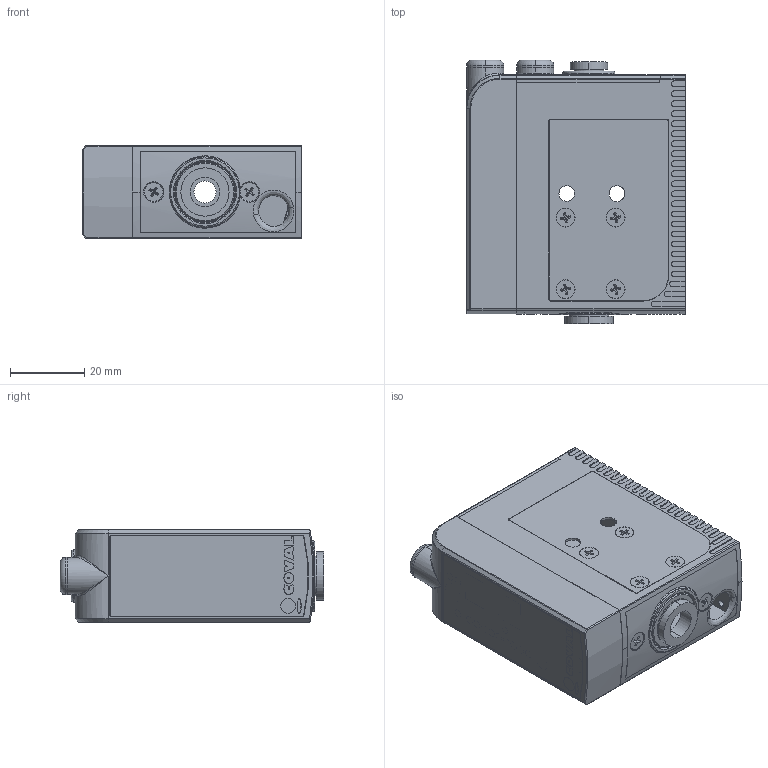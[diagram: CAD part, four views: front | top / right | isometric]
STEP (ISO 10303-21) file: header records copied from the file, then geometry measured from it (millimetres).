
FILE_DESCRIPTION (( 'STEP AP214' ), '1' );
FILE_NAME ('LEMAX90X14S.STEP', '2019-12-16T06:32:11', ( '微软用户' ), ( '微软中国' ), 'SwSTEP 2.0', 'SolidWorks 2016', '' );
FILE_SCHEMA (( 'AUTOMOTIVE_DESIGN' ));
Length unit declared in the file: millimetre
Products named in the file (1): LEMAX90X14S
Bounding box: 59 x 71.1 x 25 mm (x, y, z)
Volume: 11551 mm3; surface area: 30951.6 mm2
Topology: 26 solids, 26 shells, 951 faces, 2531 edges, 1638 vertices
Faces by surface type: plane 456, cylinder 298, cone 102, bspline 46, torus 35, sphere 14
Entity records: 43284 total; most frequent: CARTESIAN_POINT 8671, ORIENTED_EDGE 5014, DIRECTION 4932, EDGE_CURVE 2507, AXIS2_PLACEMENT_3D 1743, VERTEX_POINT 1630, LINE 1446, VECTOR 1446
